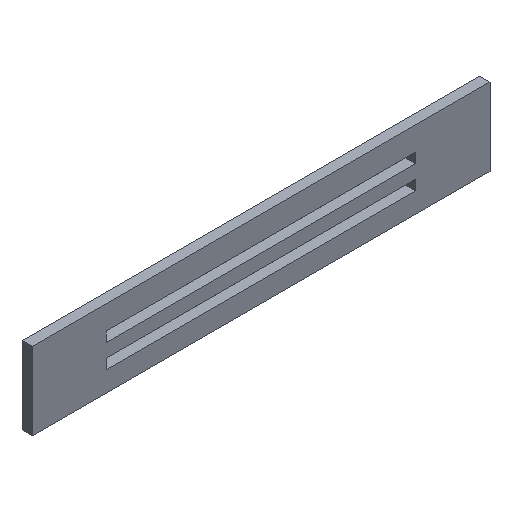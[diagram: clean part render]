
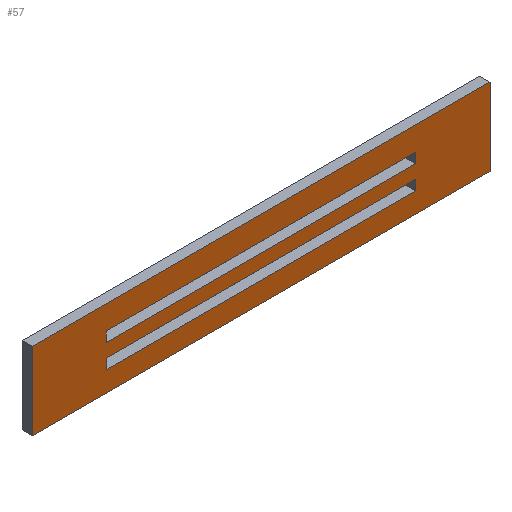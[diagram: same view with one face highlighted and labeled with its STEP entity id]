
A CAD part, isometric view. The second image highlights one B-rep face of the part: STEP entity #57.
In plain terms, the highlighted planar face has unit normal (0, -1, 0).
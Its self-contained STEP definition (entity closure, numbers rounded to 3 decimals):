
#21 = EDGE_CURVE('',#22,#24,#26,.T.);
#22 = VERTEX_POINT('',#23);
#23 = CARTESIAN_POINT('',(-68.,-130.,21.));
#24 = VERTEX_POINT('',#25);
#25 = CARTESIAN_POINT('',(-68.,-130.,44.));
#26 = LINE('',#27,#28);
#27 = CARTESIAN_POINT('',(-68.,-130.,21.));
#28 = VECTOR('',#29,1.);
#29 = DIRECTION('',(0.,0.,1.));
#57 = ADVANCED_FACE('',(#58,#83,#117),#151,.F.);
#58 = FACE_BOUND('',#59,.F.);
#59 = EDGE_LOOP('',(#60,#68,#69,#77));
#60 = ORIENTED_EDGE('',*,*,#61,.F.);
#61 = EDGE_CURVE('',#22,#62,#64,.T.);
#62 = VERTEX_POINT('',#63);
#63 = CARTESIAN_POINT('',(68.,-130.,21.));
#64 = LINE('',#65,#66);
#65 = CARTESIAN_POINT('',(-68.,-130.,21.));
#66 = VECTOR('',#67,1.);
#67 = DIRECTION('',(1.,0.,0.));
#68 = ORIENTED_EDGE('',*,*,#21,.T.);
#69 = ORIENTED_EDGE('',*,*,#70,.T.);
#70 = EDGE_CURVE('',#24,#71,#73,.T.);
#71 = VERTEX_POINT('',#72);
#72 = CARTESIAN_POINT('',(68.,-130.,44.));
#73 = LINE('',#74,#75);
#74 = CARTESIAN_POINT('',(-68.,-130.,44.));
#75 = VECTOR('',#76,1.);
#76 = DIRECTION('',(1.,0.,0.));
#77 = ORIENTED_EDGE('',*,*,#78,.F.);
#78 = EDGE_CURVE('',#62,#71,#79,.T.);
#79 = LINE('',#80,#81);
#80 = CARTESIAN_POINT('',(68.,-130.,21.));
#81 = VECTOR('',#82,1.);
#82 = DIRECTION('',(0.,0.,1.));
#83 = FACE_BOUND('',#84,.F.);
#84 = EDGE_LOOP('',(#85,#95,#103,#111));
#85 = ORIENTED_EDGE('',*,*,#86,.F.);
#86 = EDGE_CURVE('',#87,#89,#91,.T.);
#87 = VERTEX_POINT('',#88);
#88 = CARTESIAN_POINT('',(-46.,-130.,30.));
#89 = VERTEX_POINT('',#90);
#90 = CARTESIAN_POINT('',(46.,-130.,30.));
#91 = LINE('',#92,#93);
#92 = CARTESIAN_POINT('',(-57.,-130.,30.));
#93 = VECTOR('',#94,1.);
#94 = DIRECTION('',(1.,0.,0.));
#95 = ORIENTED_EDGE('',*,*,#96,.T.);
#96 = EDGE_CURVE('',#87,#97,#99,.T.);
#97 = VERTEX_POINT('',#98);
#98 = CARTESIAN_POINT('',(-46.,-130.,27.));
#99 = LINE('',#100,#101);
#100 = CARTESIAN_POINT('',(-46.,-130.,24.));
#101 = VECTOR('',#102,1.);
#102 = DIRECTION('',(0.,0.,-1.));
#103 = ORIENTED_EDGE('',*,*,#104,.T.);
#104 = EDGE_CURVE('',#97,#105,#107,.T.);
#105 = VERTEX_POINT('',#106);
#106 = CARTESIAN_POINT('',(46.,-130.,27.));
#107 = LINE('',#108,#109);
#108 = CARTESIAN_POINT('',(-57.,-130.,27.));
#109 = VECTOR('',#110,1.);
#110 = DIRECTION('',(1.,0.,0.));
#111 = ORIENTED_EDGE('',*,*,#112,.F.);
#112 = EDGE_CURVE('',#89,#105,#113,.T.);
#113 = LINE('',#114,#115);
#114 = CARTESIAN_POINT('',(46.,-130.,24.));
#115 = VECTOR('',#116,1.);
#116 = DIRECTION('',(0.,0.,-1.));
#117 = FACE_BOUND('',#118,.F.);
#118 = EDGE_LOOP('',(#119,#129,#137,#145));
#119 = ORIENTED_EDGE('',*,*,#120,.F.);
#120 = EDGE_CURVE('',#121,#123,#125,.T.);
#121 = VERTEX_POINT('',#122);
#122 = CARTESIAN_POINT('',(-46.,-130.,37.));
#123 = VERTEX_POINT('',#124);
#124 = CARTESIAN_POINT('',(46.,-130.,37.));
#125 = LINE('',#126,#127);
#126 = CARTESIAN_POINT('',(-57.,-130.,37.));
#127 = VECTOR('',#128,1.);
#128 = DIRECTION('',(1.,0.,0.));
#129 = ORIENTED_EDGE('',*,*,#130,.T.);
#130 = EDGE_CURVE('',#121,#131,#133,.T.);
#131 = VERTEX_POINT('',#132);
#132 = CARTESIAN_POINT('',(-46.,-130.,34.));
#133 = LINE('',#134,#135);
#134 = CARTESIAN_POINT('',(-46.,-130.,27.5));
#135 = VECTOR('',#136,1.);
#136 = DIRECTION('',(0.,0.,-1.));
#137 = ORIENTED_EDGE('',*,*,#138,.T.);
#138 = EDGE_CURVE('',#131,#139,#141,.T.);
#139 = VERTEX_POINT('',#140);
#140 = CARTESIAN_POINT('',(46.,-130.,34.));
#141 = LINE('',#142,#143);
#142 = CARTESIAN_POINT('',(-57.,-130.,34.));
#143 = VECTOR('',#144,1.);
#144 = DIRECTION('',(1.,0.,0.));
#145 = ORIENTED_EDGE('',*,*,#146,.F.);
#146 = EDGE_CURVE('',#123,#139,#147,.T.);
#147 = LINE('',#148,#149);
#148 = CARTESIAN_POINT('',(46.,-130.,27.5));
#149 = VECTOR('',#150,1.);
#150 = DIRECTION('',(0.,0.,-1.));
#151 = PLANE('',#152);
#152 = AXIS2_PLACEMENT_3D('',#153,#154,#155);
#153 = CARTESIAN_POINT('',(-68.,-130.,21.));
#154 = DIRECTION('',(0.,1.,0.));
#155 = DIRECTION('',(0.,0.,1.));
